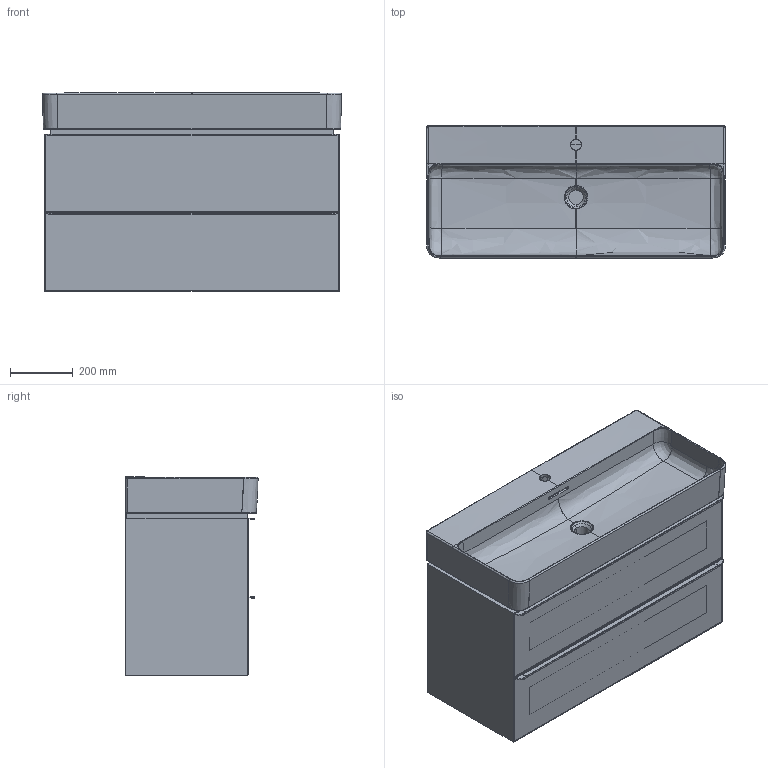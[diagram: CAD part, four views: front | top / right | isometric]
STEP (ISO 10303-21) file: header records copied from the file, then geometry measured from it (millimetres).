
FILE_DESCRIPTION(/* description */ (''),/* implementation_level */ '2;1');
FILE_NAME(/* name */ 'C:\Users\User33\Desktop\Space\3D01_410202.stp',/* time_stamp */ '2018-05-07T15:52:40+02:00',/* author */ ('User33'),/* organization */ (''),/* preprocessor_version */ 'ST-DEVELOPER v16.13',/* originating_system */ 'Autodesk Inventor 2018',/* authorisation */ '');
FILE_SCHEMA (('AUTOMOTIVE_DESIGN { 1 0 10303 214 3 1 1 }'));
Products named in the file (31): Assieme6; Parte405; Parte407; Parte409; Parte411; Parte413; Parte415; Parte417; Parte419; Parte421; Parte427; Parte429; Parte431; Parte433; Parte435; Parte437; Parte439; Parte441; Parte443; Parte449; Parte451; Parte453; Parte455; Parte457; Parte471; Parte473; Parte475; Parte477; Parte479; Parte481; Parte483
Assembly tree (30 placements, depth 2):
  Assieme6
    Parte405
    Parte407
    Parte409
    Parte411
    Parte413
    Parte415
    Parte417
    Parte419
    Parte421
    Parte427
    Parte429
    Parte431
    Parte433
    Parte435
    Parte437
    Parte439
    Parte441
    Parte443
    Parte449
    Parte451
    Parte453
    Parte455
    Parte457
    Parte471
    Parte473
    Parte475
    Parte477
    Parte479
    Parte481
    Parte483
Bounding box: 949.77 x 419.87 x 631.92 mm (x, y, z)
Volume: 29355183.3 mm3; surface area: 7502827 mm2
Topology: 29 solids, 685 shells, 1872 faces, 6342 edges, 5209 vertices
Faces by surface type: plane 945, bspline 464, cylinder 429, sphere 14, torus 11, cone 9
Full cylindrical faces by diameter (mm): 3 x2, 3.242 x16, 4 x12, 4.1 x4, 5.1 x4, 6 x8, 12.5 x4
Entity records: 172489 total; most frequent: CARTESIAN_POINT 118198, DIRECTION 9574, ORIENTED_EDGE 9451, EDGE_CURVE 6247, VERTEX_POINT 5197, AXIS2_PLACEMENT_3D 3243, LINE 3088, VECTOR 3088
